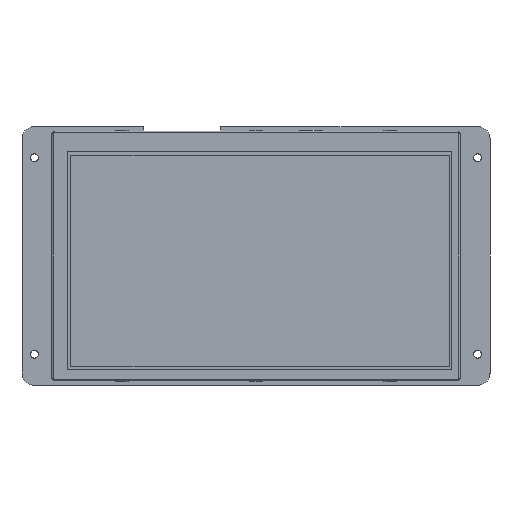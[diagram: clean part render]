
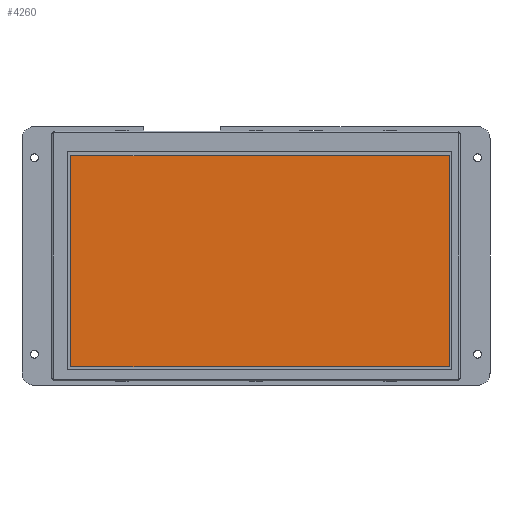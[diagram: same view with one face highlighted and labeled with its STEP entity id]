
A CAD part, front view. The second image highlights one B-rep face of the part: STEP entity #4260.
In plain terms, the highlighted planar face has unit normal (0, -1, 0) as drawn and (0, 1, 0) by its records, which use the part's own axes.
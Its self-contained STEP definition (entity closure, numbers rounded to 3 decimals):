
#234 = VERTEX_POINT ( 'NONE', #1972 ) ;
#402 = FACE_OUTER_BOUND ( 'NONE', #4952, .T. ) ;
#746 = ORIENTED_EDGE ( 'NONE', *, *, #9502, .T. ) ;
#1076 = VERTEX_POINT ( 'NONE', #1341 ) ;
#1341 = CARTESIAN_POINT ( 'NONE',  ( 156.84, 2.7, -8.24 ) ) ;
#1972 = CARTESIAN_POINT ( 'NONE',  ( 156.84, 2.7, -94.16 ) ) ;
#2118 = LINE ( 'NONE', #5649, #11856 ) ;
#4167 = VERTEX_POINT ( 'NONE', #11228 ) ;
#4260 = ADVANCED_FACE ( 'NONE', ( #402 ), #15504, .F. ) ;
#4547 = DIRECTION ( 'NONE',  ( 0., 0., 1. ) ) ;
#4891 = AXIS2_PLACEMENT_3D ( 'NONE', #14302, #16052, #16090 ) ;
#4952 = EDGE_LOOP ( 'NONE', ( #7433, #10974, #746, #10479 ) ) ;
#5649 = CARTESIAN_POINT ( 'NONE',  ( 156.84, 2.7, -8.24 ) ) ;
#5940 = CARTESIAN_POINT ( 'NONE',  ( 2.76, 2.7, -8.24 ) ) ;
#5957 = DIRECTION ( 'NONE',  ( -1., 0., 0. ) ) ;
#6370 = CARTESIAN_POINT ( 'NONE',  ( 2.76, 2.7, -94.16 ) ) ;
#6573 = LINE ( 'NONE', #8392, #7248 ) ;
#7248 = VECTOR ( 'NONE', #5957, 1000. ) ;
#7433 = ORIENTED_EDGE ( 'NONE', *, *, #10898, .T. ) ;
#7552 = DIRECTION ( 'NONE',  ( 0., 0., -1. ) ) ;
#8041 = CARTESIAN_POINT ( 'NONE',  ( 156.84, 2.7, -94.16 ) ) ;
#8190 = VECTOR ( 'NONE', #7552, 1000. ) ;
#8202 = VERTEX_POINT ( 'NONE', #6370 ) ;
#8284 = LINE ( 'NONE', #8041, #8190 ) ;
#8392 = CARTESIAN_POINT ( 'NONE',  ( 2.76, 2.7, -94.16 ) ) ;
#9502 = EDGE_CURVE ( 'NONE', #4167, #1076, #2118, .T. ) ;
#10229 = EDGE_CURVE ( 'NONE', #8202, #4167, #15668, .T. ) ;
#10479 = ORIENTED_EDGE ( 'NONE', *, *, #12293, .T. ) ;
#10898 = EDGE_CURVE ( 'NONE', #234, #8202, #6573, .T. ) ;
#10974 = ORIENTED_EDGE ( 'NONE', *, *, #10229, .T. ) ;
#11228 = CARTESIAN_POINT ( 'NONE',  ( 2.76, 2.7, -8.24 ) ) ;
#11856 = VECTOR ( 'NONE', #13196, 1000. ) ;
#12293 = EDGE_CURVE ( 'NONE', #1076, #234, #8284, .T. ) ;
#13196 = DIRECTION ( 'NONE',  ( 1., 0., 0. ) ) ;
#14302 = CARTESIAN_POINT ( 'NONE',  ( 0., 2.7, 0. ) ) ;
#15504 = PLANE ( 'NONE',  #4891 ) ;
#15668 = LINE ( 'NONE', #5940, #15676 ) ;
#15676 = VECTOR ( 'NONE', #4547, 1000. ) ;
#16052 = DIRECTION ( 'NONE',  ( 0., -1., 0. ) ) ;
#16090 = DIRECTION ( 'NONE',  ( 0., 0., -1. ) ) ;
